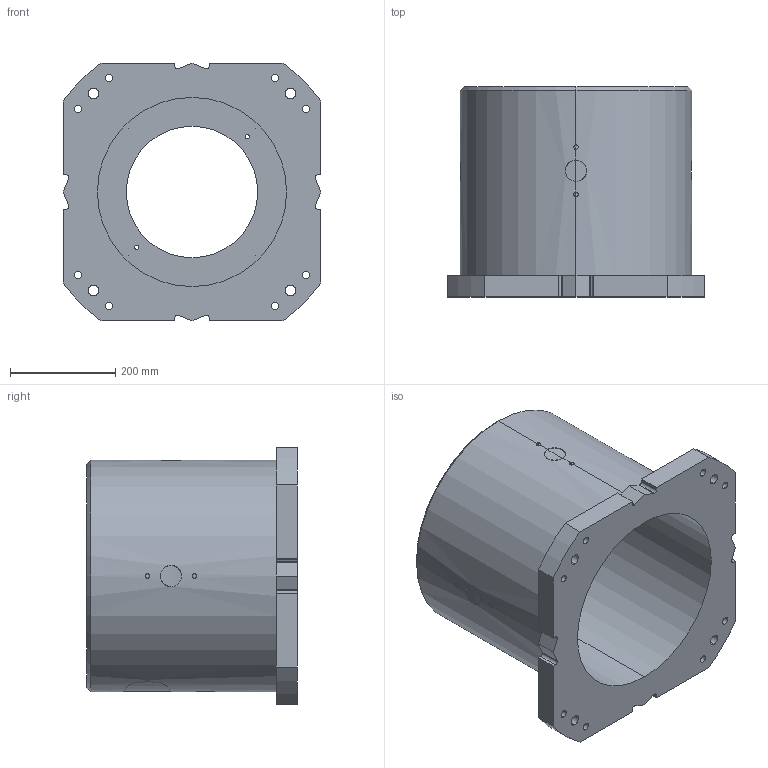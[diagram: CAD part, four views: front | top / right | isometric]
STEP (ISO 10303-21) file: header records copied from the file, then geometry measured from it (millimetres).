
FILE_DESCRIPTION (( 'STEP AP214' ), '1' );
FILE_NAME ('G-400.STEP', '2025-12-05T13:07:53', ( '' ), ( '' ), 'SwSTEP 2.0', 'SolidWorks 2022', '' );
FILE_SCHEMA (( 'AUTOMOTIVE_DESIGN' ));
Length unit declared in the file: millimetre
Products named in the file (1): G-400
Bounding box: 490 x 400 x 490 mm (x, y, z)
Volume: 24977732.5 mm3; surface area: 1393359.4 mm2
Topology: 1 solids, 1 shells, 154 faces, 404 edges, 258 vertices
Faces by surface type: cylinder 100, plane 28, bspline 16, cone 10
Entity records: 9081 total; most frequent: CARTESIAN_POINT 4749, ORIENTED_EDGE 792, DIRECTION 704, EDGE_CURVE 396, AXIS2_PLACEMENT_3D 265, VERTEX_POINT 258, EDGE_LOOP 198, LINE 174
